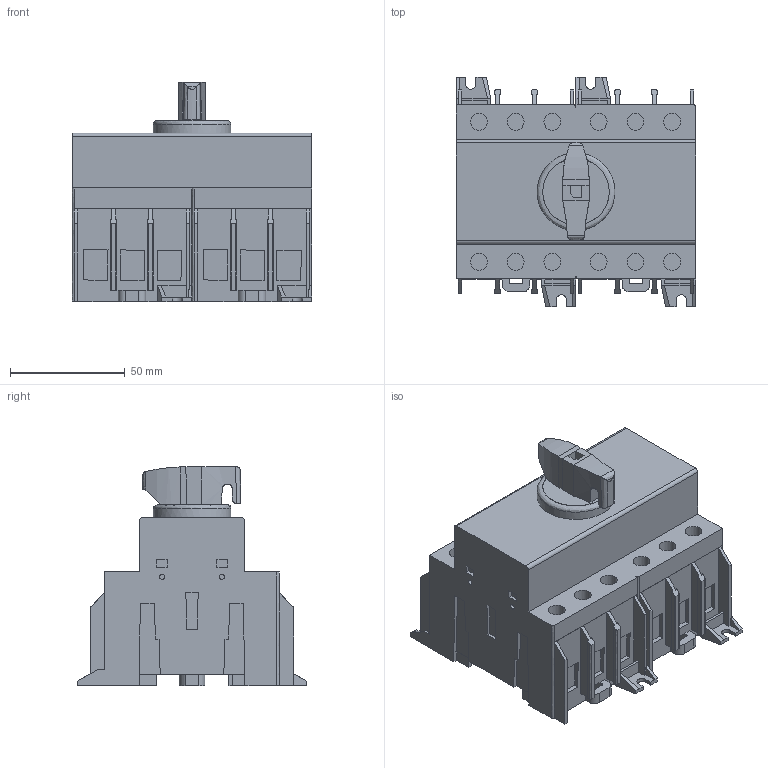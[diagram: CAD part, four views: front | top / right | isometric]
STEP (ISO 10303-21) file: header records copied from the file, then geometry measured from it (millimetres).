
FILE_DESCRIPTION (( 'STEP AP203' ), '1' );
FILE_NAME ('OptiSwitch DI-80-125C-3 (m=0,55羱).STEP', '2023-02-21T19:47:49', ( '砐錪賧瘔蠈錪' ), ( '' ), 'SwSTEP 2.0', 'SolidWorks 2018', '' );
FILE_SCHEMA (( 'CONFIG_CONTROL_DESIGN' ));
Length unit declared in the file: millimetre
Products named in the file (1): OptiSwitch DI-80-125C-3 (m=0,55羱)
Bounding box: 104.4 x 100.13 x 95.5 mm (x, y, z)
Volume: 485588.7 mm3; surface area: 64089.1 mm2
Topology: 1 solids, 1 shells, 599 faces, 1625 edges, 1075 vertices
Faces by surface type: plane 486, bspline 78, cylinder 35
Full cylindrical faces by diameter (mm): 2.2 x4, 7.3 x12, 11.213 x2, 28.953 x1, 33.829 x1
Entity records: 19359 total; most frequent: CARTESIAN_POINT 4910, ORIENTED_EDGE 3204, DIRECTION 2549, EDGE_CURVE 1602, LINE 1369, VECTOR 1369, VERTEX_POINT 1073, EDGE_LOOP 671
